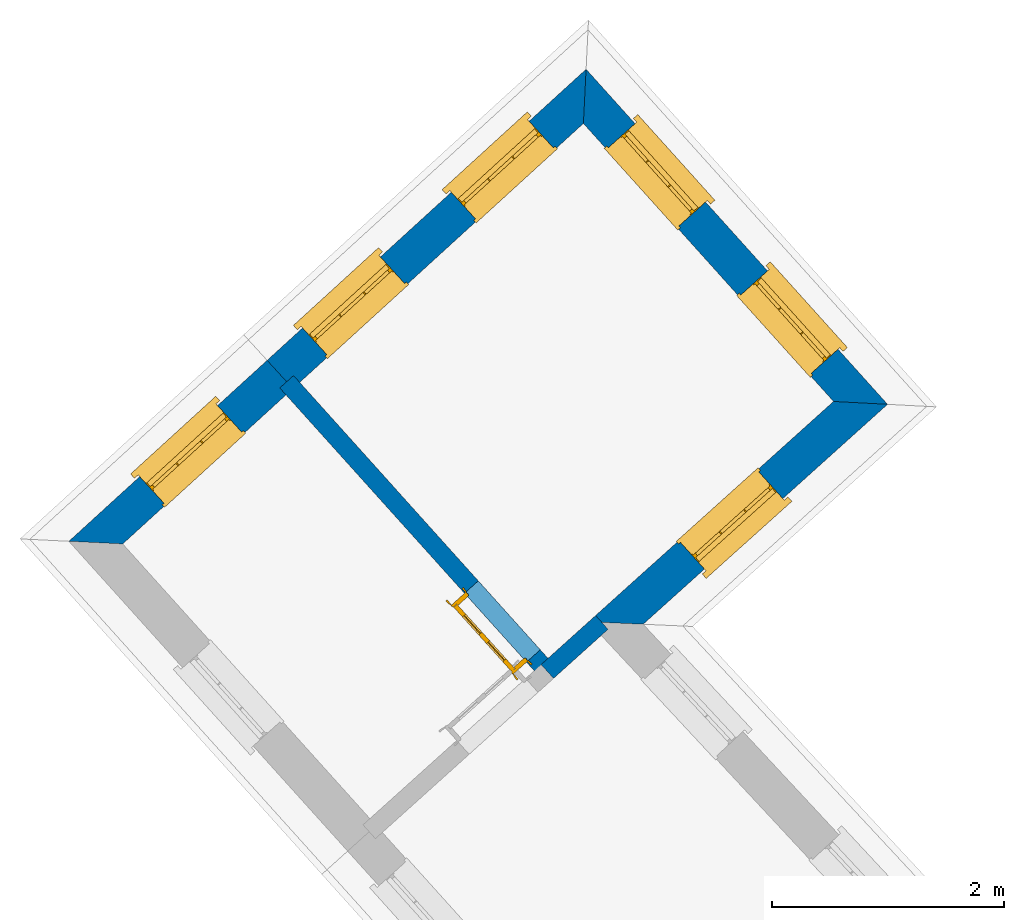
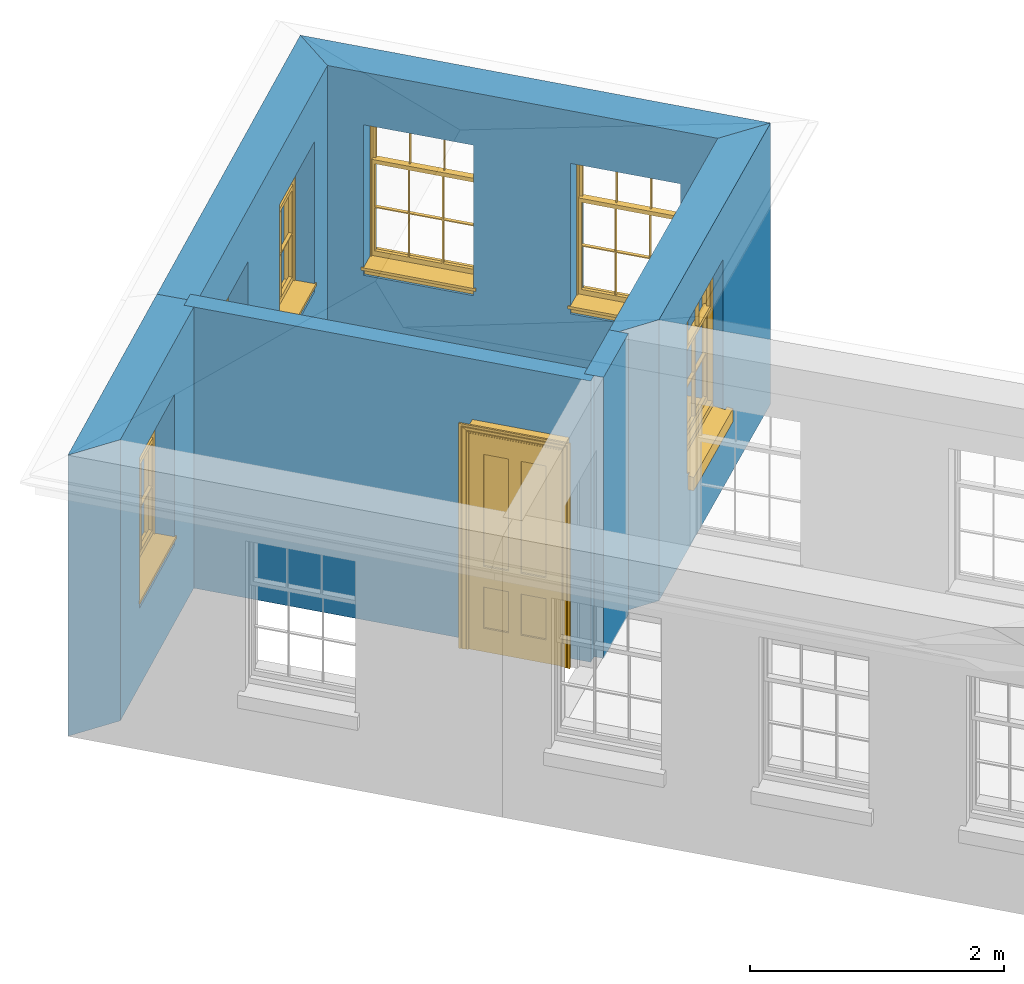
# One storey, part 2 of 3: 6 walls, 6 windows, 1 door, 7 openings.
"""IFC4 building model written with IfcOpenShell, lengths in metres."""

from ifc_helpers import new_model, si_unit, frame, origin, origin_with_axes, place, context, subcontext, project, spatial, polyline, outline, extrude, faceted_brep, source, transform, mapped, material, layer, layer_set, layer_usage, type_object, type_shapes, element, fill, save


model = new_model("IFC4")

# Units and contexts
model_context = context("Model", 3, world=origin_with_axes())
body_context = subcontext(model_context, "Body", "Model", "MODEL_VIEW")
ifc_project = project(units=[si_unit("PLANEANGLEUNIT", "RADIAN"), si_unit("MASSUNIT", "GRAM", prefix="KILO"), si_unit("FORCEUNIT", "NEWTON", prefix="KILO"), si_unit("LENGTHUNIT", "METRE"), si_unit("AREAUNIT", "SQUARE_METRE"), si_unit("VOLUMEUNIT", "CUBIC_METRE")], contexts=[model_context, model_context])

# Sites, building, storey
site_1_placement = place(None, origin_with_axes())
site_1 = spatial("IfcSite", under=ifc_project, at=site_1_placement, Name="Tamar")
site_2_placement = place(site_1_placement, origin_with_axes())
site_2 = spatial("IfcSite", under=site_1, at=site_2_placement, Name="Site plot-7", CompositionType="ELEMENT")
building_placement = place(None, origin_with_axes())
building = spatial("IfcBuilding", under=site_2, at=building_placement, Name="Building plot-7", CompositionType="ELEMENT")
storey_placement = place(None, frame((0.0, 0.0, 31.85), z_axis=(0.0, 0.0, 1.0), x_axis=(1.0, 0.0, 0.0)))
storey = spatial("IfcBuildingStorey", under=building, at=storey_placement, Name="plot-7 2", CompositionType="ELEMENT", Elevation=31.85)

# Wall, opening, window
ifc_material_1 = material(Name="Masonry")
ifc_layer_1 = layer(ifc_material_1, 0.33, ventilated=False)
ifc_layer_set_1 = layer_set([ifc_layer_1], Name="exterior_0.08_0.25")
ifc_layer_usage_1 = layer_usage(ifc_layer_set_1, "AXIS2", "POSITIVE", -0.25)
wall_type_1 = type_object("IfcWallType", Name="exterior_0.08_0.25", PredefinedType="SOLIDWALL", material=ifc_layer_set_1)
wall_1_placement = place(storey_placement, frame((243.7211711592, 286.45136074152, 0.0), z_axis=(0.0, 0.0, 1.0), x_axis=(0.743394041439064, 0.668853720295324, 0.0)))
wall_1 = element("IfcWall", 1, at=wall_1_placement, inside=storey, type_object=wall_type_1, material=ifc_layer_usage_1, Name="exterior", context=body_context, shape_type="SweptSolid", body=[
    extrude(outline(polyline([(-0.0813369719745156, 0.0800000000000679), (0.254178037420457, -0.250000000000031), (3.09300082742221, -0.250000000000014), (2.76300082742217, 0.0800000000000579), (-0.0813369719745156, 0.0800000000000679)])), origin_with_axes(), (0.0, 0.0, 1.0), 2.7),
])
opening_1_placement = place(wall_1_placement, frame((0.966500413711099, 0.0, 0.75)))
opening_1 = element("IfcOpeningElement", 2, at=opening_1_placement, cuts=wall_1, Name="My Opening", ObjectType="Opening", context=body_context, shape_type="SweptSolid", body=[
    extrude(outline(polyline([(0.0, -0.270000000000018), (0.909999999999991, -0.270000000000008), (0.910000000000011, 1.1), (1.94289029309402e-14, 1.09999999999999), (0.0, -0.270000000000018)])), origin_with_axes(), (0.0, 0.0, 1.0), 1.445),
])
window_type = type_object("IfcWindowType", Name="sash_shorter", PartitioningType="DOUBLE_PANEL_HORIZONTAL", PredefinedType="NOTDEFINED")
shared_shape_1 = source(origin(), body_context, "Body", "Brep", [
    faceted_brep([(0.876875, 0.145, 0.999097), (0.876875, 0.145, 1.411875), (0.9, 0.145, 1.435), (0.033125, 0.145, 1.411875), (0.033125, 0.145, 0.999097), (0.01, 0.145, 1.435), (0.033125, 0.115, 1.411875), (0.01, 0.115, 1.435), (0.033125, 0.115, 0.999097), (0.876875, 0.115, 1.411875), (0.876875, 0.115, 0.999097), (0.9, 0.115, 1.435), (0.033125, 0.145, 0.960972), (0.01, 0.145, 0.960972), (0.033125, 0.145, 0.548195), (0.876875, 0.145, 0.960972), (0.876875, 0.145, 0.548195), (0.9, 0.145, 0.960972), (0.876875, 0.145, 0.538195), (0.876875, 0.145, 0.125417), (0.9, 0.145, 0.077167), (0.033125, 0.145, 0.125417), (0.033125, 0.145, 0.538195), (0.01, 0.145, 0.077167), (0.9, 0.115, 0.960972), (0.01, 0.115, 0.960972), (-0.0425, 0.0, 0.01), (-0.0425, -0.05, 0.001667), (0.0, 0.0, 0.01), (0.9525, 0.0, 0.01), (0.91, 0.0, 0.01), (0.9525, -0.05, 0.001667), (-0.02, 0.33, 0.077167), (0.0, 0.33, 0.077167), (-0.02, 0.36, 0.077167), (0.0, 0.19, 0.077167), (0.01, 0.19, 0.077167), (0.91, 0.19, 0.077167), (0.91, 0.33, 0.077167), (0.9, 0.19, 0.077167), (0.93, 0.33, 0.077167), (0.93, 0.36, 0.077167), (0.01, 0.145, 0.999097), (0.01, 0.175, 0.999097), (0.9, 0.145, 0.999097), (0.9, 0.175, 0.999097), (0.876875, 0.175, 0.125417), (0.876875, 0.175, 0.538195), (0.9, 0.175, 0.077167), (0.876875, 0.175, 0.548195), (0.876875, 0.175, 0.960972), (0.033125, 0.175, 0.125417), (0.01, 0.175, 0.077167), (0.033125, 0.175, 0.538195), (0.033125, 0.175, 0.960972), (0.033125, 0.175, 0.548195), (-0.02, 0.33, 0.052167), (-0.02, 0.36, 0.052167), (0.93, 0.36, 0.052167), (0.93, 0.33, 0.052167), (0.91, 0.33, 0.052167), (0.0, 0.33, 0.052167), (0.91, 0.1, 0.026667), (0.0, 0.1, 0.026667), (-0.0425, -0.05, -0.123333), (0.9525, -0.05, -0.123333), (-0.0425, 0.0, -0.123333), (0.9525, 0.0, -0.123333), (0.01, 0.19, 1.435), (0.9, 0.19, 1.435), (0.0, 0.19, 1.445), (0.91, 0.19, 1.445), (0.01, 0.1, 0.077167), (0.9, 0.1, 0.077167), (0.592292, 0.145, 0.125417), (0.592292, 0.175, 0.125417), (0.317708, 0.175, 0.125417), (0.317708, 0.145, 0.125417), (0.592292, 0.145, 0.548195), (0.317708, 0.145, 0.548195), (0.317708, 0.145, 0.538195), (0.592292, 0.145, 0.538195), (0.592292, 0.175, 0.548195), (0.317708, 0.175, 0.548195), (0.602292, 0.175, 0.548195), (0.602292, 0.145, 0.548195), (0.317708, 0.175, 0.538195), (0.307708, 0.175, 0.125417), (0.307708, 0.175, 0.538195), (0.602292, 0.175, 0.538195), (0.602292, 0.175, 0.125417), (0.592292, 0.175, 0.538195), (0.307708, 0.175, 0.548195), (0.317708, 0.175, 0.960972), (0.307708, 0.175, 0.960972), (0.602292, 0.175, 0.960972), (0.592292, 0.175, 0.960972), (0.307708, 0.145, 0.538195), (0.307708, 0.145, 0.125417), (0.307708, 0.145, 0.548195), (0.307708, 0.145, 0.960972), (0.592292, 0.145, 0.960972), (0.317708, 0.145, 0.960972), (0.602292, 0.145, 0.960972), (0.602292, 0.145, 0.538195), (0.602292, 0.145, 0.125417), (0.317708, 0.115, 1.411875), (0.307708, 0.115, 1.411875), (0.307708, 0.115, 0.999097), (0.317708, 0.115, 0.999097), (0.602292, 0.115, 1.411875), (0.592292, 0.115, 1.411875), (0.592292, 0.115, 0.999097), (0.602292, 0.115, 0.999097), (0.317708, 0.145, 0.999097), (0.307708, 0.145, 0.999097), (0.307708, 0.145, 1.411875), (0.317708, 0.145, 1.411875), (0.602292, 0.145, 0.999097), (0.592292, 0.145, 0.999097), (0.592292, 0.145, 1.411875), (0.602292, 0.145, 1.411875), (0.91, 0.1, 1.445), (0.9, 0.1, 1.435), (0.01, 0.1, 1.435), (0.0, 0.1, 1.445), (0.91, 0.0, 0.0), (0.0, 0.0, 0.0), (0.91, 0.33, 0.0), (0.0, 0.33, 0.0)], [[[0, 1, 2]], [[3, 4, 5]], [[6, 7, 8]], [[9, 10, 11]], [[12, 13, 14]], [[15, 16, 17]], [[18, 19, 20]], [[21, 22, 23]], [[24, 15, 17]], [[13, 12, 25]], [[26, 27, 28]], [[29, 30, 31]], [[32, 33, 34]], [[35, 36, 33]], [[37, 38, 39]], [[40, 41, 38]], [[42, 4, 43]], [[44, 45, 0]], [[46, 47, 48]], [[49, 50, 45]], [[51, 52, 53]], [[54, 55, 43]], [[38, 33, 36, 39]], [[41, 34, 33, 38]], [[56, 32, 34, 57]], [[57, 34, 41, 58]], [[58, 41, 40, 59]], [[57, 58, 60, 61]], [[52, 48, 39, 36]], [[62, 63, 28, 30]], [[27, 31, 30, 28]], [[27, 64, 65, 31]], [[66, 67, 65, 64]], [[2, 5, 68, 69]], [[68, 70, 71, 69]], [[20, 23, 72, 73]], [[73, 72, 63, 62]], [[74, 75, 76, 77]], [[78, 79, 80, 81]], [[78, 82, 83, 79]], [[16, 49, 84, 85]], [[86, 76, 87, 88]], [[89, 90, 75, 91]], [[92, 88, 53, 55]], [[82, 91, 86, 83]], [[93, 83, 92, 94]], [[95, 84, 82, 96]], [[89, 84, 49, 47]], [[97, 88, 87, 98]], [[22, 53, 88, 97]], [[81, 91, 75, 74]], [[80, 86, 91, 81]], [[77, 76, 86, 80]], [[99, 92, 55, 14]], [[100, 94, 92, 99]], [[101, 96, 82, 78]], [[79, 83, 93, 102]], [[85, 84, 95, 103]], [[104, 89, 47, 18]], [[105, 90, 89, 104]], [[104, 18, 16, 85]], [[80, 97, 98, 77]], [[104, 81, 74, 105]], [[103, 101, 78, 85]], [[99, 14, 22, 97]], [[102, 100, 99, 79]], [[106, 107, 108, 109]], [[110, 111, 112, 113]], [[114, 115, 116, 117]], [[118, 119, 120, 121]], [[107, 116, 115, 108]], [[111, 120, 119, 112]], [[109, 114, 117, 106]], [[113, 118, 121, 110]], [[85, 78, 81, 104]], [[84, 89, 91, 82]], [[83, 86, 88, 92]], [[79, 99, 97, 80]], [[109, 112, 119, 114]], [[102, 93, 96, 101]], [[106, 117, 120, 111]], [[98, 87, 51, 21]], [[6, 3, 116, 107]], [[110, 121, 1, 9]], [[19, 46, 90, 105]], [[26, 66, 64, 27]], [[29, 31, 65, 67]], [[25, 24, 112, 109]], [[11, 7, 106, 111]], [[75, 48, 52, 76]], [[43, 45, 96, 93]], [[45, 43, 114, 119]], [[5, 2, 120, 117]], [[24, 25, 102, 101]], [[42, 5, 4]], [[2, 44, 0]], [[49, 45, 48, 47]], [[52, 43, 55, 53]], [[14, 13, 23, 22]], [[20, 17, 16, 18]], [[24, 11, 10]], [[25, 8, 7]], [[8, 4, 3, 6]], [[9, 1, 0, 10]], [[15, 50, 49, 16]], [[18, 47, 46, 19]], [[21, 51, 53, 22]], [[14, 55, 54, 12]], [[44, 2, 69, 45]], [[68, 5, 42, 43]], [[36, 35, 70, 68]], [[39, 69, 71, 37]], [[62, 122, 123, 73]], [[63, 72, 124, 125]], [[8, 108, 115, 4]], [[113, 10, 0, 118]], [[94, 100, 12, 54]], [[17, 20, 73, 24]], [[72, 23, 13, 25]], [[52, 36, 68, 43]], [[69, 39, 48, 45]], [[11, 24, 73, 123]], [[7, 124, 72, 25]], [[23, 77, 98]], [[98, 21, 23]], [[105, 74, 20]], [[20, 19, 105]], [[20, 74, 77, 23]], [[113, 112, 24]], [[24, 10, 113]], [[25, 109, 108]], [[108, 8, 25]], [[110, 9, 11]], [[11, 111, 110]], [[7, 6, 107]], [[107, 106, 7]], [[5, 117, 116]], [[116, 3, 5]], [[121, 120, 2]], [[2, 1, 121]], [[11, 123, 124, 7]], [[122, 125, 124, 123]], [[43, 93, 94]], [[94, 54, 43]], [[96, 45, 95]], [[50, 95, 45]], [[15, 103, 95, 50]], [[48, 75, 90]], [[90, 46, 48]], [[87, 76, 52]], [[52, 51, 87]], [[103, 15, 24]], [[24, 101, 103]], [[100, 102, 25]], [[25, 12, 100]], [[115, 114, 43]], [[43, 4, 115]], [[118, 0, 45]], [[45, 119, 118]], [[71, 70, 125, 122]], [[70, 35, 63, 125]], [[122, 62, 37, 71]], [[126, 67, 66, 127]], [[60, 58, 59]], [[38, 60, 59, 40]], [[61, 56, 57]], [[32, 56, 61, 33]], [[61, 60, 128, 129]], [[62, 60, 38, 37]], [[126, 128, 60, 62]], [[33, 61, 63, 35]], [[61, 129, 127, 63]], [[128, 126, 127, 129]], [[28, 127, 66, 26]], [[63, 127, 28]], [[29, 67, 126, 30]], [[30, 126, 62]]]),
])
type_shapes(window_type, [shared_shape_1])
window_1_placement = place(storey_placement, frame((244.620252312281, 286.897091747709, 0.75), z_axis=(0.0, 0.0, 1.0), x_axis=(0.676488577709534, 0.608656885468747, 0.0)))
window_1 = element("IfcWindow", 3, at=window_1_placement, inside=storey, type_object=window_type, Name="toilet outside window", OverallHeight=1.445, OverallWidth=0.91, context=body_context, shape_type="MappedRepresentation", body=[
    mapped(shared_shape_1, transform((0.0, 0.0, 0.0), scale=1.0)),
])
fill(opening_1, window_1)

# Wall, openings, windows
wall_2_placement = place(storey_placement, frame((245.834641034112, 288.352912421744, 0.0), z_axis=(0.0, 0.0, 1.0), x_axis=(-0.668853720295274, 0.743394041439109, 0.0)))
wall_2 = element("IfcWall", 4, at=wall_2_placement, inside=storey, type_object=wall_type_1, material=ifc_layer_usage_1, Name="exterior", context=body_context, shape_type="SweptSolid", body=[
    extrude(outline(polyline([(0.0800000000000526, 0.0800000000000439), (-0.249999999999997, -0.250000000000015), (3.64121916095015, -0.250000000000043), (3.30886085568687, 0.0799999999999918), (0.0800000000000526, 0.0800000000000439)])), origin_with_axes(), (0.0, 0.0, 1.0), 2.7),
])
opening_2_placement = place(wall_2_placement, frame((0.38943256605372, 0.0, 0.75)))
opening_2 = element("IfcOpeningElement", 5, at=opening_2_placement, cuts=wall_2, Name="My Opening", ObjectType="Opening", context=body_context, shape_type="SweptSolid", body=[
    extrude(outline(polyline([(0.0, -0.269999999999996), (0.909999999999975, -0.269999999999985), (0.910000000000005, 1.09999999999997), (3.0142555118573e-14, 1.09999999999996), (0.0, -0.269999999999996)])), origin_with_axes(), (0.0, 0.0, 1.0), 1.445),
])
opening_3_placement = place(wall_2_placement, frame((2.09943256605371, 0.0, 0.75)))
opening_3 = element("IfcOpeningElement", 6, at=opening_3_placement, cuts=wall_2, Name="My Opening", ObjectType="Opening", context=body_context, shape_type="SweptSolid", body=[
    extrude(outline(polyline([(0.0, -0.269999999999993), (0.909999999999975, -0.269999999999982), (0.910000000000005, 1.09999999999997), (3.01980662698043e-14, 1.09999999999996), (0.0, -0.269999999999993)])), origin_with_axes(), (0.0, 0.0, 1.0), 1.445),
])
window_2_placement = place(storey_placement, frame((245.774884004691, 288.82300477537, 0.75), z_axis=(0.0, 0.0, 1.0), x_axis=(-0.60865688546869, 0.676488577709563, 0.0)))
window_2 = element("IfcWindow", 7, at=window_2_placement, inside=storey, type_object=window_type, Name="toilet outside window", OverallHeight=1.445, OverallWidth=0.91, context=body_context, shape_type="MappedRepresentation", body=[
    mapped(shared_shape_1, transform((0.0, 0.0, 0.0), scale=1.0)),
])
fill(opening_2, window_2)
window_3_placement = place(storey_placement, frame((244.631144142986, 290.094208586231, 0.75), z_axis=(0.0, 0.0, 1.0), x_axis=(-0.60865688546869, 0.676488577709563, 0.0)))
window_3 = element("IfcWindow", 8, at=window_3_placement, inside=storey, type_object=window_type, Name="toilet outside window", OverallHeight=1.445, OverallWidth=0.91, context=body_context, shape_type="MappedRepresentation", body=[
    mapped(shared_shape_1, transform((0.0, 0.0, 0.0), scale=1.0)),
])
fill(opening_3, window_3)

wall_3_placement = place(storey_placement, frame((243.567606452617, 290.872596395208, 0.0), z_axis=(0.0, 0.0, 1.0), x_axis=(-0.738612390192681, -0.674130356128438, 0.0)))
wall_3 = element("IfcWall", 9, at=wall_3_placement, inside=storey, type_object=wall_type_1, material=ifc_layer_usage_1, Name="exterior", context=body_context, shape_type="SweptSolid", body=[
    extrude(outline(polyline([(0.0805717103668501, 0.0799999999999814), (-0.251786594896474, -0.250000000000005), (3.47624042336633, -0.249999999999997), (3.4762404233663, 0.0799999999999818), (0.0805717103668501, 0.0799999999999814)])), origin_with_axes(), (0.0, 0.0, 1.0), 2.7),
])
opening_4_placement = place(wall_3_placement, frame((0.414060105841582, 0.0, 0.75)))
opening_4 = element("IfcOpeningElement", 10, at=opening_4_placement, cuts=wall_3, Name="My Opening", ObjectType="Opening", context=body_context, shape_type="SweptSolid", body=[
    extrude(outline(polyline([(0.0, -0.270000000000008), (0.909999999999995, -0.269999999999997), (0.909999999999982, 1.1), (-1.45439216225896e-14, 1.09999999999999), (0.0, -0.270000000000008)])), origin_with_axes(), (0.0, 0.0, 1.0), 1.445),
])
opening_5_placement = place(wall_3_placement, frame((2.15218031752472, 0.0, 0.75)))
opening_5 = element("IfcOpeningElement", 11, at=opening_5_placement, cuts=wall_3, Name="My Opening", ObjectType="Opening", context=body_context, shape_type="SweptSolid", body=[
    extrude(outline(polyline([(0.0, -0.27000000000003), (0.909999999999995, -0.270000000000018), (0.909999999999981, 1.09999999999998), (-1.4210854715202e-14, 1.09999999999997), (0.0, -0.27000000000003)])), origin_with_axes(), (0.0, 0.0, 1.0), 1.445),
])
window_4_placement = place(storey_placement, frame((243.079761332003, 290.79289125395, 0.75), z_axis=(0.0, 0.0, 1.0), x_axis=(-0.672137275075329, -0.613458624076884, 0.0)))
window_4 = element("IfcWindow", 12, at=window_4_placement, inside=storey, type_object=window_type, Name="toilet outside window", OverallHeight=1.445, OverallWidth=0.91, context=body_context, shape_type="MappedRepresentation", body=[
    mapped(shared_shape_1, transform((0.0, 0.0, 0.0), scale=1.0)),
])
fill(opening_4, window_4)
window_5_placement = place(storey_placement, frame((241.79596420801, 289.621171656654, 0.75), z_axis=(0.0, 0.0, 1.0), x_axis=(-0.672137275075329, -0.613458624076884, 0.0)))
window_5 = element("IfcWindow", 13, at=window_5_placement, inside=storey, type_object=window_type, Name="toilet outside window", OverallHeight=1.445, OverallWidth=0.91, context=body_context, shape_type="MappedRepresentation", body=[
    mapped(shared_shape_1, transform((0.0, 0.0, 0.0), scale=1.0)),
])
fill(opening_5, window_5)

# Wall, opening, window
wall_4_placement = place(storey_placement, frame((241.00001220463, 288.529157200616, 0.0), z_axis=(0.0, 0.0, 1.0), x_axis=(-0.738612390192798, -0.67413035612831, 0.0)))
wall_4 = element("IfcWall", 14, at=wall_4_placement, inside=storey, type_object=wall_type_1, material=ifc_layer_usage_1, Name="exterior", context=body_context, shape_type="SweptSolid", body=[
    extrude(outline(polyline([(-3.09233047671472e-14, 0.0799999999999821), (4.86430765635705e-14, -0.249999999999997), (2.31704891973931, -0.250000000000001), (1.98939049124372, 0.0800000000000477), (-3.09233047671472e-14, 0.0799999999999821)])), origin_with_axes(), (0.0, 0.0, 1.0), 2.7),
])
opening_6_placement = place(wall_4_placement, frame((0.579411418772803, 0.0, 0.75)))
opening_6 = element("IfcOpeningElement", 15, at=opening_6_placement, cuts=wall_4, Name="My Opening", ObjectType="Opening", context=body_context, shape_type="SweptSolid", body=[
    extrude(outline(polyline([(0.0, -0.269999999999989), (0.910000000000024, -0.269999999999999), (0.909999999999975, 1.09999999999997), (-4.85167461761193e-14, 1.09999999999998), (0.0, -0.269999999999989)])), origin_with_axes(), (0.0, 0.0, 1.0), 1.445),
])
window_6_placement = place(storey_placement, frame((240.390036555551, 288.337983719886, 0.75), z_axis=(0.0, 0.0, 1.0), x_axis=(-0.672137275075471, -0.61345862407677, 0.0)))
window_6 = element("IfcWindow", 16, at=window_6_placement, inside=storey, type_object=window_type, Name="circulation outside window", OverallHeight=1.445, OverallWidth=0.91, context=body_context, shape_type="MappedRepresentation", body=[
    mapped(shared_shape_1, transform((0.0, 0.0, 0.0), scale=1.0)),
])
fill(opening_6, window_6)

# Wall, opening, door
ifc_material_2 = material(Name="Masonry")
ifc_layer_2 = layer(ifc_material_2, 0.16, ventilated=False)
ifc_layer_set_2 = layer_set([ifc_layer_2], Name="interior_0.08_0.08")
ifc_layer_usage_2 = layer_usage(ifc_layer_set_2, "AXIS2", "POSITIVE", -0.08)
wall_type_2 = type_object("IfcWallType", Name="interior_0.08_0.08", PredefinedType="SOLIDWALL", material=ifc_layer_set_2)
wall_5_placement = place(storey_placement, frame((243.250490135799, 286.027875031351, 0.0), z_axis=(0.0, 0.0, 1.0), x_axis=(-0.668853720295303, 0.743394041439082, 0.0)))
wall_5 = element("IfcWall", 17, at=wall_5_placement, inside=storey, type_object=wall_type_2, material=ifc_layer_usage_2, Name="interior", context=body_context, shape_type="SweptSolid", body=[
    extrude(outline(polyline([(-1.04756067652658e-14, 0.080000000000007), (1.0467640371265e-14, -0.080000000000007), (3.36467879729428, -0.0800000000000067), (3.36467879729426, 0.0800000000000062), (-1.04756067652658e-14, 0.080000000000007)])), origin_with_axes(), (0.0, 0.0, 1.0), 2.7),
])
opening_7_placement = place(wall_5_placement, frame((0.179999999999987, 0.0, 0.0199999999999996)))
opening_7 = element("IfcOpeningElement", 18, at=opening_7_placement, cuts=wall_5, Name="My Opening", ObjectType="Opening", context=body_context, shape_type="SweptSolid", body=[
    extrude(outline(polyline([(0.0, -0.0999999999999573), (0.800000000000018, -0.0999999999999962), (0.80000000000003, 1.09999999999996), (1.2267964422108e-14, 1.1), (0.0, -0.0999999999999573)])), origin_with_axes(), (0.0, 0.0, 1.0), 2.1),
])
door_type = type_object("IfcDoorType", Name="door_inside", OperationType="SINGLE_SWING_LEFT", PredefinedType="NOTDEFINED")
shared_shape_2 = source(origin(), body_context, "Body", "Brep", [
    faceted_brep([(0.773, 0.33, 1.895), (0.66, 0.33, 1.895), (0.66, 0.33, 2.073), (0.773, 0.33, 2.073), (0.773, 0.33, 0.82), (0.66, 0.33, 0.82), (0.45, 0.33, 1.895), (0.45, 0.33, 2.073), (0.773, 0.33, 0.62), (0.66, 0.33, 0.62), (0.66, 0.315, 0.82), (0.66, 0.315, 1.895), (0.45, 0.315, 1.895), (0.35, 0.33, 1.895), (0.35, 0.33, 2.073), (0.773, 0.33, 0.225), (0.66, 0.33, 0.225), (0.45, 0.33, 0.62), (0.45, 0.33, 0.82), (0.45, 0.315, 0.82), (0.35, 0.33, 0.82), (0.14, 0.33, 2.073), (0.14, 0.33, 1.895), (0.773, 0.33, 0.0), (0.66, 0.33, 0.0), (0.66, 0.315, 0.225), (0.66, 0.315, 0.62), (0.45, 0.315, 0.62), (0.35, 0.33, 0.62), (0.35, 0.315, 0.82), (0.35, 0.315, 1.895), (0.14, 0.315, 1.895), (0.027, 0.33, 2.073), (0.027, 0.33, 1.895), (0.773, 0.292, 0.0), (0.66, 0.292, 0.0), (0.45, 0.33, 0.0), (0.45, 0.33, 0.225), (0.45, 0.315, 0.225), (0.35, 0.33, 0.225), (0.14, 0.33, 0.82), (0.14, 0.33, 0.62), (0.14, 0.315, 0.82), (0.027, 0.33, 0.82), (0.773, 0.292, 0.225), (0.66, 0.292, 0.225), (0.45, 0.292, 0.0), (0.35, 0.33, 0.0), (0.35, 0.315, 0.225), (0.35, 0.315, 0.62), (0.14, 0.315, 0.62), (0.027, 0.33, 0.62), (0.773, 0.292, 0.62), (0.66, 0.292, 0.62), (0.45, 0.292, 0.225), (0.35, 0.292, 0.0), (0.14, 0.33, 0.225), (0.14, 0.33, 0.0), (0.14, 0.315, 0.225), (0.027, 0.33, 0.225), (0.773, 0.292, 0.82), (0.66, 0.292, 0.82), (0.66, 0.307, 0.62), (0.66, 0.307, 0.225), (0.45, 0.307, 0.225), (0.35, 0.292, 0.225), (0.14, 0.292, 0.0), (0.027, 0.33, 0.0), (0.773, 0.292, 1.895), (0.66, 0.292, 1.895), (0.45, 0.292, 0.62), (0.45, 0.292, 0.82), (0.45, 0.307, 0.62), (0.35, 0.292, 0.62), (0.14, 0.292, 0.225), (0.027, 0.292, 0.0), (0.773, 0.292, 2.073), (0.66, 0.292, 2.073), (0.66, 0.307, 1.895), (0.66, 0.307, 0.82), (0.45, 0.307, 0.82), (0.35, 0.292, 0.82), (0.35, 0.307, 0.62), (0.35, 0.307, 0.225), (0.14, 0.307, 0.225), (0.027, 0.292, 0.225), (0.45, 0.292, 1.895), (0.45, 0.292, 2.073), (0.45, 0.307, 1.895), (0.35, 0.292, 1.895), (0.14, 0.292, 0.82), (0.14, 0.292, 0.62), (0.14, 0.307, 0.62), (0.027, 0.292, 0.62), (0.35, 0.292, 2.073), (0.35, 0.307, 1.895), (0.35, 0.307, 0.82), (0.14, 0.307, 0.82), (0.027, 0.292, 0.82), (0.14, 0.292, 2.073), (0.14, 0.292, 1.895), (0.14, 0.307, 1.895), (0.027, 0.292, 1.895), (0.027, 0.292, 2.073), (0.02, 0.335, 0.0), (0.005, 0.34, 0.0), (0.005, 0.34, 2.095), (0.02, 0.335, 2.08), (0.02, 0.33, 0.0), (0.0, 0.335, 0.0), (0.0, 0.335, 2.1), (0.795, 0.34, 2.095), (0.78, 0.335, 2.08), (0.02, 0.33, 2.08), (0.0, 0.33, 0.0), (-0.032, 0.345, 0.0), (-0.032, 0.345, 2.132), (0.8, 0.335, 2.1), (0.795, 0.34, 0.0), (0.78, 0.335, 0.0), (0.78, 0.33, 2.08), (0.04, 0.29, 0.0), (0.025, 0.29, 0.0), (0.025, 0.29, 2.075), (0.04, 0.29, 2.06), (-0.04, 0.34, 0.0), (-0.04, 0.34, 2.14), (0.832, 0.345, 2.132), (0.8, 0.335, 0.0), (0.78, 0.33, 0.0), (0.8, 0.33, 0.0), (0.86, 0.33, 0.0), (0.86, 0.33, 2.16), (0.8, 0.33, 2.1), (-0.06, 0.33, 2.16), (0.0, 0.33, 2.1), (-0.06, 0.33, 0.0), (-0.04, 0.345, 0.0), (-0.04, 0.345, 2.14), (0.84, 0.34, 2.14), (0.832, 0.345, 0.0), (0.84, 0.34, 0.0), (0.86, 0.345, 0.0), (0.86, 0.345, 2.16), (-0.06, 0.345, 2.16), (-0.06, 0.345, 0.0), (0.84, 0.345, 0.0), (0.84, 0.345, 2.14), (-0.025, 0.155, 0.0), (-0.025, 0.16, 0.0), (-0.025, 0.16, 2.125), (-0.025, 0.155, 2.125), (-0.017, 0.155, 0.0), (-0.017, 0.155, 2.117), (0.825, 0.16, 2.125), (0.825, 0.155, 2.125), (0.825, 0.155, 0.0), (0.845, 0.155, 0.0), (-0.045, 0.155, 2.145), (-0.045, 0.155, 0.0), (0.845, 0.155, 2.145), (0.015, 0.165, 0.0), (0.015, 0.165, 2.085), (0.817, 0.155, 2.117), (0.825, 0.16, 0.0), (0.845, 0.17, 0.0), (0.845, 0.17, 2.145), (-0.045, 0.17, 2.145), (-0.045, 0.17, 0.0), (0.02, 0.16, 0.0), (0.02, 0.16, 2.08), (0.785, 0.165, 2.085), (0.817, 0.155, 0.0), (0.8, 0.17, 0.0), (0.8, 0.17, 2.1), (0.0, 0.17, 2.1), (0.0, 0.17, 0.0), (0.035, 0.165, 0.0), (0.035, 0.165, 2.065), (0.78, 0.16, 2.08), (0.785, 0.165, 0.0), (0.775, 0.29, 2.075), (0.76, 0.29, 2.06), (0.035, 0.17, 2.065), (0.035, 0.17, 0.0), (0.765, 0.165, 2.065), (0.78, 0.16, 0.0), (0.765, 0.17, 0.0), (0.765, 0.17, 2.065), (0.765, 0.165, 0.0), (0.04, 0.17, 2.06), (0.04, 0.17, 0.0), (0.76, 0.17, 2.06), (0.76, 0.17, 0.0), (0.76, 0.29, 0.0), (0.775, 0.29, 0.0), (0.025, 0.33, 0.0), (0.025, 0.33, 2.075), (0.775, 0.33, 0.0), (0.775, 0.33, 2.075)], [[[0, 1, 2, 3]], [[1, 0, 4, 5]], [[1, 6, 7, 2]], [[8, 9, 5, 4]], [[1, 5, 10, 11]], [[6, 1, 11, 12]], [[6, 13, 14, 7]], [[15, 16, 9, 8]], [[9, 17, 18, 5]], [[5, 18, 19, 10]], [[10, 19, 12, 11]], [[18, 6, 12, 19]], [[18, 20, 13, 6]], [[21, 14, 13, 22]], [[23, 24, 16, 15]], [[9, 16, 25, 26]], [[17, 9, 26, 27]], [[17, 28, 20, 18]], [[13, 20, 29, 30]], [[22, 13, 30, 31]], [[32, 21, 22, 33]], [[34, 35, 24, 23]], [[24, 36, 37, 16]], [[16, 37, 38, 25]], [[25, 38, 27, 26]], [[37, 17, 27, 38]], [[37, 39, 28, 17]], [[40, 20, 28, 41]], [[20, 40, 42, 29]], [[31, 30, 29, 42]], [[40, 22, 31, 42]], [[33, 22, 40, 43]], [[35, 34, 44, 45]], [[35, 46, 36, 24]], [[36, 47, 39, 37]], [[28, 39, 48, 49]], [[41, 28, 49, 50]], [[43, 40, 41, 51]], [[45, 44, 52, 53]], [[46, 35, 45, 54]], [[46, 55, 47, 36]], [[56, 39, 47, 57]], [[39, 56, 58, 48]], [[50, 49, 48, 58]], [[56, 41, 50, 58]], [[51, 41, 56, 59]], [[53, 52, 60, 61]], [[45, 53, 62, 63]], [[54, 45, 63, 64]], [[55, 46, 54, 65]], [[55, 66, 57, 47]], [[59, 56, 57, 67]], [[61, 60, 68, 69]], [[70, 53, 61, 71]], [[53, 70, 72, 62]], [[72, 64, 63, 62]], [[70, 54, 64, 72]], [[65, 54, 70, 73]], [[65, 74, 66, 55]], [[67, 57, 66, 75]], [[69, 68, 76, 77]], [[61, 69, 78, 79]], [[71, 61, 79, 80]], [[73, 70, 71, 81]], [[65, 73, 82, 83]], [[74, 65, 83, 84]], [[74, 85, 75, 66]], [[86, 69, 77, 87]], [[69, 86, 88, 78]], [[88, 80, 79, 78]], [[86, 71, 80, 88]], [[81, 71, 86, 89]], [[73, 81, 90, 91]], [[73, 91, 92, 82]], [[83, 82, 92, 84]], [[91, 74, 84, 92]], [[91, 93, 85, 74]], [[89, 86, 87, 94]], [[81, 89, 95, 96]], [[90, 81, 96, 97]], [[90, 98, 93, 91]], [[94, 99, 100, 89]], [[89, 100, 101, 95]], [[101, 97, 96, 95]], [[100, 90, 97, 101]], [[100, 102, 98, 90]], [[99, 103, 102, 100]], [[32, 103, 99, 21]], [[102, 103, 32, 33]], [[98, 102, 33, 43]], [[21, 99, 94, 14]], [[94, 87, 7, 14]], [[7, 87, 77, 2]], [[76, 3, 2, 77]], [[43, 51, 93, 98]], [[51, 59, 85, 93]], [[67, 75, 85, 59]], [[34, 23, 15, 44]], [[44, 15, 8, 52]], [[52, 8, 4, 60]], [[0, 68, 60, 4]], [[0, 3, 76, 68]], [[104, 105, 106, 107]], [[104, 108, 109, 105]], [[105, 109, 110, 106]], [[107, 106, 111, 112]], [[107, 113, 108, 104]], [[114, 109, 108]], [[109, 115, 116, 110]], [[106, 110, 117, 111]], [[112, 111, 118, 119]], [[113, 107, 112, 120]], [[121, 122, 123, 124]], [[115, 109, 114, 125]], [[115, 125, 126, 116]], [[110, 116, 127, 117]], [[111, 117, 128, 118]], [[118, 128, 129, 119]], [[120, 112, 119, 129]], [[130, 129, 128]], [[130, 131, 132, 133]], [[133, 132, 134, 135]], [[135, 134, 136, 114]], [[136, 125, 114]], [[125, 137, 138, 126]], [[116, 126, 139, 127]], [[117, 127, 140, 128]], [[141, 130, 128, 140]], [[131, 130, 141]], [[131, 142, 143, 132]], [[132, 143, 144, 134]], [[134, 144, 145, 136]], [[137, 125, 136, 145]], [[143, 142, 146]], [[143, 146, 147]], [[137, 145, 144]], [[143, 147, 138]], [[138, 137, 144]], [[143, 138, 144]], [[126, 138, 147, 139]], [[127, 139, 141, 140]], [[142, 131, 141, 146]], [[139, 147, 146, 141]], [[148, 149, 150, 151]], [[149, 152, 153, 150]], [[151, 150, 154, 155]], [[155, 156, 157]], [[158, 159, 148]], [[158, 148, 151]], [[155, 157, 160]], [[158, 151, 155]], [[155, 160, 158]], [[152, 161, 162, 153]], [[150, 153, 163, 154]], [[155, 154, 164, 156]], [[156, 164, 165, 157]], [[157, 165, 166, 160]], [[160, 166, 167, 158]], [[158, 167, 168, 159]], [[161, 169, 170, 162]], [[153, 162, 171, 163]], [[154, 163, 172, 164]], [[165, 164, 173]], [[165, 173, 174, 166]], [[166, 174, 175, 167]], [[167, 175, 176, 168]], [[169, 177, 178, 170]], [[162, 170, 179, 171]], [[163, 171, 180, 172]], [[172, 180, 173, 164]], [[124, 123, 181, 182]], [[183, 178, 177, 184]], [[170, 178, 185, 179]], [[171, 179, 186, 180]], [[187, 173, 180]], [[185, 188, 187, 189]], [[188, 185, 178, 183]], [[179, 185, 189, 186]], [[189, 187, 180, 186]], [[190, 183, 184, 191]], [[192, 188, 183, 190]], [[191, 184, 122, 121]], [[124, 190, 191, 121]], [[193, 187, 188, 192]], [[182, 192, 190, 124]], [[184, 176, 122]], [[194, 195, 187, 193]], [[192, 182, 194, 193]], [[161, 176, 184]], [[114, 108, 122, 176]], [[173, 187, 195]], [[152, 149, 176, 161]], [[169, 161, 184, 177]], [[196, 122, 108]], [[176, 175, 135, 114]], [[173, 195, 129, 130]], [[176, 149, 168]], [[123, 122, 196, 197]], [[196, 108, 113, 197]], [[175, 174, 133, 135]], [[198, 129, 195]], [[133, 174, 173, 130]], [[159, 168, 149, 148]], [[181, 123, 197, 199]], [[197, 113, 120, 199]], [[199, 120, 129, 198]], [[195, 181, 199, 198]], [[195, 194, 182, 181]]]),
])
type_shapes(door_type, [shared_shape_2])
door_placement = place(storey_placement, frame((243.20443587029, 286.22857133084, 0.0199999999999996), z_axis=(0.0, 0.0, 1.0), x_axis=(-0.535082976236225, 0.594715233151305, 0.0)))
door = element("IfcDoor", 19, at=door_placement, inside=storey, type_object=door_type, Name="toilet inside door", OverallHeight=2.1, OverallWidth=0.8, context=body_context, shape_type="MappedRepresentation", body=[
    mapped(shared_shape_2, transform((0.0, 0.0, 0.0), scale=1.0)),
])
fill(opening_7, door)

# Wall
wall_6_placement = place(storey_placement, frame((243.250490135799, 286.027875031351, 0.0), z_axis=(0.0, 0.0, 1.0), x_axis=(0.743394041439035, 0.668853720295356, 0.0)))
element("IfcWall", 20, at=wall_6_placement, inside=storey, type_object=wall_type_2, material=ifc_layer_usage_2, Name="interior", context=body_context, shape_type="SweptSolid", body=[
    extrude(outline(polyline([(-2.37449923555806e-14, 0.0799999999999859), (2.37725530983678e-14, -0.0799999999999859), (0.633151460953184, -0.0799999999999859), (0.633151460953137, 0.079999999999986), (-2.37449923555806e-14, 0.0799999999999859)])), origin_with_axes(), (0.0, 0.0, 1.0), 2.7),
])

save(model, "model.ifc")
